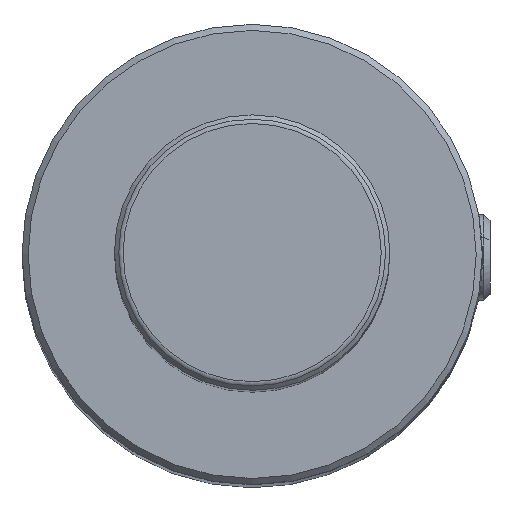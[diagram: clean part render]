
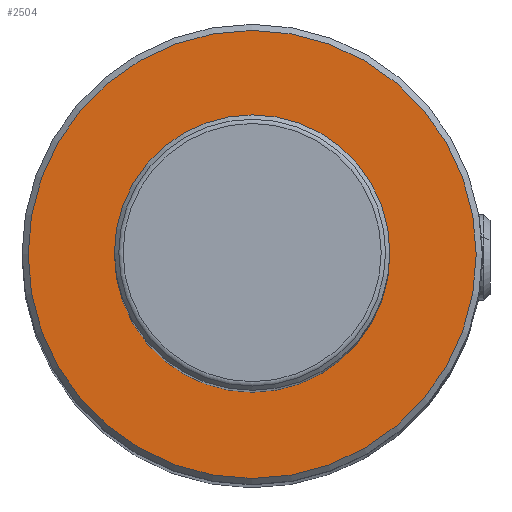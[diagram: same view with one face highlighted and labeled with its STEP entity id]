
A CAD part, top view. The second image highlights one B-rep face of the part: STEP entity #2504.
In plain terms, the highlighted planar face has unit normal (0, 0, 1).
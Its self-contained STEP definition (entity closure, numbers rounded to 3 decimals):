
#2484 = VERTEX_POINT('',#2485);
#2485 = CARTESIAN_POINT('',(36.6,0.,284.));
#2493 = EDGE_CURVE('',#2484,#2484,#2494,.T.);
#2494 = CIRCLE('',#2495,36.6);
#2495 = AXIS2_PLACEMENT_3D('',#2496,#2497,#2498);
#2496 = CARTESIAN_POINT('',(0.,0.,284.));
#2497 = DIRECTION('',(0.,0.,1.));
#2498 = DIRECTION('',(1.,0.,0.));
#2504 = ADVANCED_FACE('',(#2505),#2508,.T.);
#2505 = FACE_BOUND('',#2506,.T.);
#2506 = EDGE_LOOP('',(#2507));
#2507 = ORIENTED_EDGE('',*,*,#2493,.T.);
#2508 = PLANE('',#2509);
#2509 = AXIS2_PLACEMENT_3D('',#2510,#2511,#2512);
#2510 = CARTESIAN_POINT('',(0.,0.,284.));
#2511 = DIRECTION('',(0.,0.,1.));
#2512 = DIRECTION('',(1.,0.,0.));
